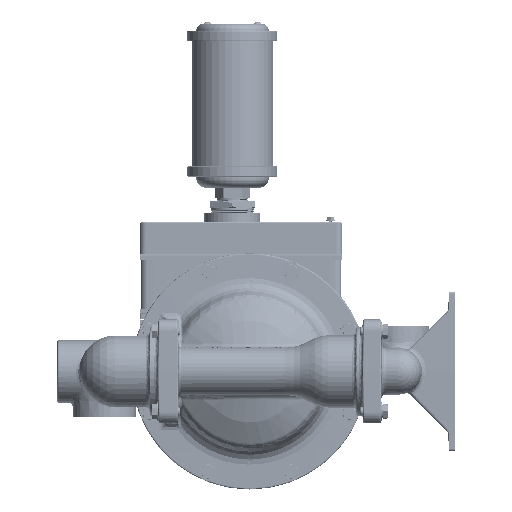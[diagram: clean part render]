
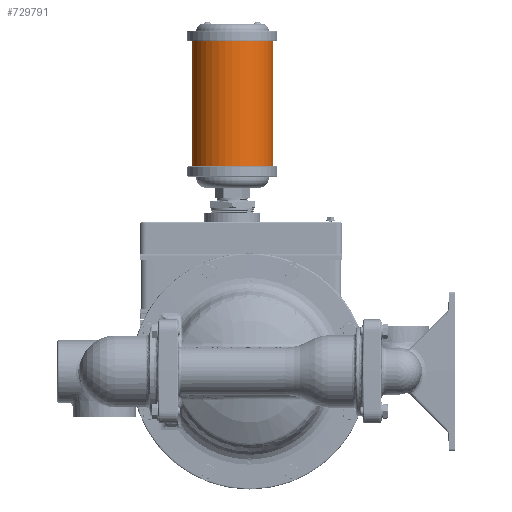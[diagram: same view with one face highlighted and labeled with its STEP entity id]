
A CAD part, left-side view. The second image highlights one B-rep face of the part: STEP entity #729791.
In plain terms, the highlighted cylindrical face has radius 45.339 mm (diameter 90.678 mm), a partial arc.
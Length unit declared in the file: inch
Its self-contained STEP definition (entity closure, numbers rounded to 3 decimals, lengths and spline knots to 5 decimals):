
#175952=DIRECTION('',(0.,0.,1.));
#175953=VECTOR('',#175952,5.5);
#175954=CARTESIAN_POINT('',(0.,2.535,8.983));
#175955=LINE('',#175954,#175953);
#175956=DIRECTION('',(0.,0.,1.));
#175957=VECTOR('',#175956,5.5);
#175958=CARTESIAN_POINT('',(0.,-1.035,8.983));
#175959=LINE('',#175958,#175957);
#175960=CARTESIAN_POINT('',(0.,0.75,8.983));
#175961=DIRECTION('',(0.,0.,1.));
#175962=DIRECTION('',(0.,1.,0.));
#175963=AXIS2_PLACEMENT_3D('',#175960,#175961,#175962);
#175985=CARTESIAN_POINT('',(0.,0.75,14.483));
#175986=DIRECTION('',(0.,0.,1.));
#175987=DIRECTION('',(0.,1.,0.));
#175988=AXIS2_PLACEMENT_3D('',#175985,#175986,#175987);
#590092=CARTESIAN_POINT('',(0.,2.535,8.983));
#590093=CARTESIAN_POINT('',(0.,2.535,14.483));
#590094=VERTEX_POINT('',#590092);
#590095=VERTEX_POINT('',#590093);
#590096=CARTESIAN_POINT('',(0.,-1.035,8.983));
#590097=CARTESIAN_POINT('',(0.,-1.035,14.483));
#590098=VERTEX_POINT('',#590096);
#590099=VERTEX_POINT('',#590097);
#729777=CARTESIAN_POINT('',(0.,0.75,15.592));
#729778=DIRECTION('',(0.,0.,-1.));
#729779=DIRECTION('',(0.,-1.,0.));
#729780=AXIS2_PLACEMENT_3D('',#729777,#729778,#729779);
#729781=CYLINDRICAL_SURFACE('',#729780,1.785);
#729783=ORIENTED_EDGE('',*,*,#729782,.T.);
#729785=ORIENTED_EDGE('',*,*,#729784,.T.);
#729787=ORIENTED_EDGE('',*,*,#729786,.F.);
#729788=ORIENTED_EDGE('',*,*,#729758,.F.);
#729789=EDGE_LOOP('',(#729783,#729785,#729787,#729788));
#729790=FACE_OUTER_BOUND('',#729789,.F.);
#175964=CIRCLE('',#175963,1.785);
#175989=CIRCLE('',#175988,1.785);
#729758=EDGE_CURVE('',#590094,#590098,#175964,.T.);
#729782=EDGE_CURVE('',#590094,#590095,#175955,.T.);
#729784=EDGE_CURVE('',#590095,#590099,#175989,.T.);
#729786=EDGE_CURVE('',#590098,#590099,#175959,.T.);
#729791=ADVANCED_FACE('',(#729790),#729781,.T.);
